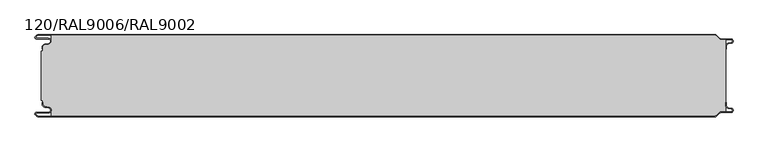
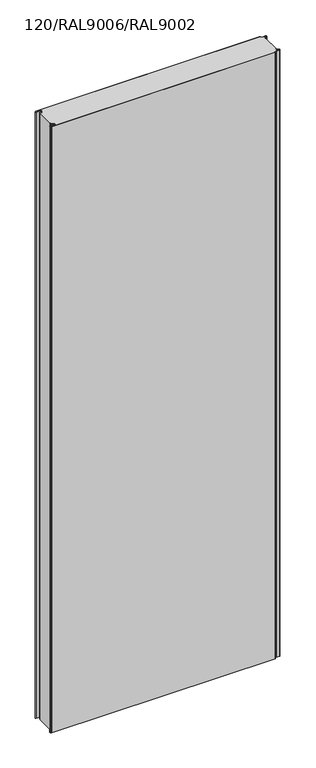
"""IFC4 building model written with IfcOpenShell, lengths in millimetres: plate geometry, TR_C_V_FTV_Panel : 120/RAL9006/RAL9002."""

from ifc_helpers import new_model, si_unit, point, frame_2d, origin, origin_with_axes, place, context, project, spatial, polyline, circle_curve, trimmed, segment, composite_curve, outline, extrude, source, transform, mapped, element, save


def plate_120_ral9006_ral9002_27679325(model_context):
    return source(origin(), model_context, "Body", "SweptSolid", [
        extrude(outline(composite_curve([segment(polyline([(499.8000012, -103.1130328), (499.8000012, -99.0), (500.6000012, -99.0), (500.6000012, -103.1130328)]), True, "CONTINUOUS"), segment(trimmed(circle_curve(frame_2d((504.3500012, -103.1130328)), 3.75), [point((500.6000012, -103.1130328))], [point((503.6988205, -106.8060618))], True, "CARTESIAN"), True, "CONTINUOUS"), segment(polyline([(503.6988205, -106.8060618), (507.9143577, -107.5493748)]), True, "CONTINUOUS"), segment(trimmed(circle_curve(frame_2d((507.3500012, -110.75)), 3.25), [point((507.9143577, -107.5493748))], [point((507.3500012, -114.0))], False, "CARTESIAN"), True, "CONTINUOUS"), segment(polyline([(507.3500012, -114.0), (492.6000012, -114.0)]), True, "CONTINUOUS"), segment(trimmed(circle_curve(frame_2d((492.6000012, -116.5)), 2.5), [point((492.6000012, -114.0))], [point((490.8322342, -114.732233))], True, "CARTESIAN"), True, "CONTINUOUS"), segment(polyline([(490.8322342, -114.732233), (486.4431469, -119.1213203)]), True, "CONTINUOUS"), segment(trimmed(circle_curve(frame_2d((484.3218266, -117.0)), 3.0), [point((486.4431469, -119.1213203))], [point((484.3218266, -120.0))], False, "CARTESIAN"), True, "CONTINUOUS"), segment(polyline([(484.3218266, -120.0), (-505.018628, -120.0)]), True, "CONTINUOUS"), segment(trimmed(circle_curve(frame_2d((-505.018628, -117.25)), 2.75), [point((-505.018628, -120.0))], [point((-506.9631716, -119.1945436))], False, "CARTESIAN"), True, "CONTINUOUS"), segment(polyline([(-506.9631716, -119.1945436), (-508.8288571, -117.3288582)]), True, "CONTINUOUS"), segment(trimmed(circle_curve(frame_2d((-507.4499988, -115.95)), 1.95), [point((-508.8288571, -117.3288582))], [point((-507.4499988, -114.0))], False, "CARTESIAN"), True, "CONTINUOUS"), segment(polyline([(-507.4499988, -114.0), (-489.8499988, -114.0)]), True, "CONTINUOUS"), segment(trimmed(circle_curve(frame_2d((-489.8499988, -110.55)), 3.45), [point((-489.8499988, -114.0))], [point((-489.2509126, -107.1524133))], True, "CARTESIAN"), True, "CONTINUOUS"), segment(polyline([(-489.2509126, -107.1524133), (-495.3011795, -106.085588)]), True, "CONTINUOUS"), segment(trimmed(circle_curve(frame_2d((-494.6499988, -102.3925589)), 3.75), [point((-495.3011795, -106.085588))], [point((-498.3999988, -102.3925589))], False, "CARTESIAN"), True, "CONTINUOUS"), segment(polyline([(-498.3999988, -102.3925589), (-498.3999988, -99.0), (-497.5999988, -99.0), (-497.5999988, -102.3925589)]), True, "CONTINUOUS"), segment(trimmed(circle_curve(frame_2d((-494.6499988, -102.3925589)), 2.95), [point((-497.5999988, -102.3925589))], [point((-495.162261, -105.2977418))], True, "CARTESIAN"), True, "CONTINUOUS"), segment(polyline([(-495.162261, -105.2977418), (-489.1119941, -106.364567)]), True, "CONTINUOUS"), segment(trimmed(circle_curve(frame_2d((-489.8499988, -110.55)), 4.25), [point((-489.1119941, -106.364567))], [point((-489.8499988, -114.8))], False, "CARTESIAN"), True, "CONTINUOUS"), segment(polyline([(-489.8499988, -114.8), (-507.4499988, -114.8)]), True, "CONTINUOUS"), segment(trimmed(circle_curve(frame_2d((-507.4499988, -115.95)), 1.15), [point((-507.4499988, -114.8))], [point((-508.2631716, -116.7631728))], True, "CARTESIAN"), True, "CONTINUOUS"), segment(polyline([(-508.2631716, -116.7631728), (-506.3974862, -118.6288582)]), True, "CONTINUOUS"), segment(trimmed(circle_curve(frame_2d((-505.018628, -117.25)), 1.95), [point((-506.3974862, -118.6288582))], [point((-505.018628, -119.2))], True, "CARTESIAN"), True, "CONTINUOUS"), segment(polyline([(-505.018628, -119.2), (484.3218266, -119.2)]), True, "CONTINUOUS"), segment(trimmed(circle_curve(frame_2d((484.3218266, -117.0)), 2.2), [point((484.3218266, -119.2))], [point((485.8774615, -118.5556349))], True, "CARTESIAN"), True, "CONTINUOUS"), segment(polyline([(485.8774615, -118.5556349), (490.2665488, -114.1665476)]), True, "CONTINUOUS"), segment(trimmed(circle_curve(frame_2d((492.6000012, -116.5)), 3.3), [point((490.2665488, -114.1665476))], [point((492.6000012, -113.2))], False, "CARTESIAN"), True, "CONTINUOUS"), segment(polyline([(492.6000012, -113.2), (507.3500012, -113.2)]), True, "CONTINUOUS"), segment(trimmed(circle_curve(frame_2d((507.3500012, -110.75)), 2.45), [point((507.3500012, -113.2))], [point((507.7754392, -108.337221))], True, "CARTESIAN"), True, "CONTINUOUS"), segment(polyline([(507.7754392, -108.337221), (503.559902, -107.5939081)]), True, "CONTINUOUS"), segment(trimmed(circle_curve(frame_2d((504.3500012, -103.1130328)), 4.55), [point((503.559902, -107.5939081))], [point((499.8000012, -103.1130328))], False, "CARTESIAN"), True, "CONTINUOUS")], self_intersect=False)), origin_with_axes(), (0.0, 0.0, 1.0), 2830.0),
        extrude(outline(composite_curve([segment(polyline([(-499.9999988, -23.7), (-497.5999988, -23.7), (-497.5999988, -17.6074411)]), True, "CONTINUOUS"), segment(trimmed(circle_curve(frame_2d((-494.6499988, -17.6074411)), 2.95), [point((-497.5999988, -17.6074411))], [point((-495.162261, -14.7022582))], False, "CARTESIAN"), True, "CONTINUOUS"), segment(polyline([(-495.162261, -14.7022582), (-489.1119941, -13.635433)]), True, "CONTINUOUS"), segment(trimmed(circle_curve(frame_2d((-489.8499988, -9.45)), 4.25), [point((-489.1119941, -13.635433))], [point((-485.5999988, -9.45))], True, "CARTESIAN"), True, "CONTINUOUS"), segment(polyline([(-485.5999988, -9.45), (-485.5999988, -0.8), (484.3218266, -0.8)]), True, "CONTINUOUS"), segment(trimmed(circle_curve(frame_2d((484.3218266, -3.0)), 2.2), [point((484.3218266, -0.8))], [point((485.8774615, -1.4443651))], False, "CARTESIAN"), True, "CONTINUOUS"), segment(polyline([(485.8774615, -1.4443651), (490.2665488, -5.8334524)]), True, "CONTINUOUS"), segment(trimmed(circle_curve(frame_2d((492.6000012, -3.5)), 3.3), [point((490.2665488, -5.8334524))], [point((492.6000012, -6.8))], True, "CARTESIAN"), True, "CONTINUOUS"), segment(polyline([(492.6000012, -6.8), (500.0, -6.8), (500.0, -113.2), (492.6000012, -113.2)]), True, "CONTINUOUS"), segment(trimmed(circle_curve(frame_2d((492.6000012, -116.5)), 3.3), [point((492.6000012, -113.2))], [point((490.2665488, -114.1665476))], True, "CARTESIAN"), True, "CONTINUOUS"), segment(polyline([(490.2665488, -114.1665476), (485.8774615, -118.5556349)]), True, "CONTINUOUS"), segment(trimmed(circle_curve(frame_2d((484.3218266, -117.0)), 2.2), [point((485.8774615, -118.5556349))], [point((484.3218266, -119.2))], False, "CARTESIAN"), True, "CONTINUOUS"), segment(polyline([(484.3218266, -119.2), (-485.5999988, -119.2), (-485.5999988, -110.55)]), True, "CONTINUOUS"), segment(trimmed(circle_curve(frame_2d((-489.8499988, -110.55)), 4.25), [point((-485.5999988, -110.55))], [point((-489.1119941, -106.364567))], True, "CARTESIAN"), True, "CONTINUOUS"), segment(polyline([(-489.1119941, -106.364567), (-495.162261, -105.2977418)]), True, "CONTINUOUS"), segment(trimmed(circle_curve(frame_2d((-494.6499988, -102.3925589)), 2.95), [point((-495.162261, -105.2977418))], [point((-497.5999988, -102.3925589))], False, "CARTESIAN"), True, "CONTINUOUS"), segment(polyline([(-497.5999988, -102.3925589), (-497.5999988, -96.3), (-499.9999988, -96.3), (-499.9999988, -23.7)]), True, "CONTINUOUS")], self_intersect=False)), origin_with_axes(), (0.0, 0.0, 1.0), 2830.0),
        extrude(outline(composite_curve([segment(trimmed(circle_curve(frame_2d((504.3500012, -16.8869672)), 4.55), [point((499.8000012, -16.8869672))], [point((503.559902, -12.4060919))], False, "CARTESIAN"), True, "CONTINUOUS"), segment(polyline([(503.559902, -12.4060919), (507.7754392, -11.662779)]), True, "CONTINUOUS"), segment(trimmed(circle_curve(frame_2d((507.3500012, -9.25)), 2.45), [point((507.7754392, -11.662779))], [point((507.3500012, -6.8))], True, "CARTESIAN"), True, "CONTINUOUS"), segment(polyline([(507.3500012, -6.8), (492.6000012, -6.8)]), True, "CONTINUOUS"), segment(trimmed(circle_curve(frame_2d((492.6000012, -3.5)), 3.3), [point((492.6000012, -6.8))], [point((490.2665488, -5.8334524))], False, "CARTESIAN"), True, "CONTINUOUS"), segment(polyline([(490.2665488, -5.8334524), (485.8774615, -1.4443651)]), True, "CONTINUOUS"), segment(trimmed(circle_curve(frame_2d((484.3218266, -3.0)), 2.2), [point((485.8774615, -1.4443651))], [point((484.3218266, -0.8))], True, "CARTESIAN"), True, "CONTINUOUS"), segment(polyline([(484.3218266, -0.8), (-505.018628, -0.8)]), True, "CONTINUOUS"), segment(trimmed(circle_curve(frame_2d((-505.018628, -2.75)), 1.95), [point((-505.018628, -0.8))], [point((-506.3974862, -1.3711418))], True, "CARTESIAN"), True, "CONTINUOUS"), segment(polyline([(-506.3974862, -1.3711418), (-508.2631716, -3.2368272)]), True, "CONTINUOUS"), segment(trimmed(circle_curve(frame_2d((-507.4499988, -4.05)), 1.15), [point((-508.2631716, -3.2368272))], [point((-507.4499988, -5.2))], True, "CARTESIAN"), True, "CONTINUOUS"), segment(polyline([(-507.4499988, -5.2), (-489.8499988, -5.2)]), True, "CONTINUOUS"), segment(trimmed(circle_curve(frame_2d((-489.8499988, -9.45)), 4.25), [point((-489.8499988, -5.2))], [point((-489.1119941, -13.635433))], False, "CARTESIAN"), True, "CONTINUOUS"), segment(polyline([(-489.1119941, -13.635433), (-495.162261, -14.7022582)]), True, "CONTINUOUS"), segment(trimmed(circle_curve(frame_2d((-494.6499988, -17.6074411)), 2.95), [point((-495.162261, -14.7022582))], [point((-497.5999988, -17.6074411))], True, "CARTESIAN"), True, "CONTINUOUS"), segment(polyline([(-497.5999988, -17.6074411), (-497.5999988, -21.0), (-498.3999988, -21.0), (-498.3999988, -17.6074411)]), True, "CONTINUOUS"), segment(trimmed(circle_curve(frame_2d((-494.6499988, -17.6074411)), 3.75), [point((-498.3999988, -17.6074411))], [point((-495.3011795, -13.914412))], False, "CARTESIAN"), True, "CONTINUOUS"), segment(polyline([(-495.3011795, -13.914412), (-489.2509126, -12.8475867)]), True, "CONTINUOUS"), segment(trimmed(circle_curve(frame_2d((-489.8499988, -9.45)), 3.45), [point((-489.2509126, -12.8475867))], [point((-489.8499988, -6.0))], True, "CARTESIAN"), True, "CONTINUOUS"), segment(polyline([(-489.8499988, -6.0), (-507.4499988, -6.0)]), True, "CONTINUOUS"), segment(trimmed(circle_curve(frame_2d((-507.4499988, -4.05)), 1.95), [point((-507.4499988, -6.0))], [point((-508.8288571, -2.6711418))], False, "CARTESIAN"), True, "CONTINUOUS"), segment(polyline([(-508.8288571, -2.6711418), (-506.9631716, -0.8054564)]), True, "CONTINUOUS"), segment(trimmed(circle_curve(frame_2d((-505.018628, -2.75)), 2.75), [point((-506.9631716, -0.8054564))], [point((-505.018628, 0.0))], False, "CARTESIAN"), True, "CONTINUOUS"), segment(polyline([(-505.018628, 0.0), (484.3218266, 0.0)]), True, "CONTINUOUS"), segment(trimmed(circle_curve(frame_2d((484.3218266, -3.0)), 3.0), [point((484.3218266, 0.0))], [point((486.4431469, -0.8786797))], False, "CARTESIAN"), True, "CONTINUOUS"), segment(polyline([(486.4431469, -0.8786797), (490.8322342, -5.267767)]), True, "CONTINUOUS"), segment(trimmed(circle_curve(frame_2d((492.6000012, -3.5)), 2.5), [point((490.8322342, -5.267767))], [point((492.6000012, -6.0))], True, "CARTESIAN"), True, "CONTINUOUS"), segment(polyline([(492.6000012, -6.0), (507.3500012, -6.0)]), True, "CONTINUOUS"), segment(trimmed(circle_curve(frame_2d((507.3500012, -9.25)), 3.25), [point((507.3500012, -6.0))], [point((507.9143577, -12.4506252))], False, "CARTESIAN"), True, "CONTINUOUS"), segment(polyline([(507.9143577, -12.4506252), (503.6988205, -13.1939382)]), True, "CONTINUOUS"), segment(trimmed(circle_curve(frame_2d((504.3500012, -16.8869672)), 3.75), [point((503.6988205, -13.1939382))], [point((500.6000012, -16.8869672))], True, "CARTESIAN"), True, "CONTINUOUS"), segment(polyline([(500.6000012, -16.8869672), (500.6000012, -21.0), (499.8000012, -21.0), (499.8000012, -16.8869672)]), True, "CONTINUOUS")], self_intersect=False)), origin_with_axes(), (0.0, 0.0, 1.0), 2830.0),
    ])


if __name__ == "__main__":
    model = new_model("IFC4")
    model_context = context("Model", 3, world=origin())
    ifc_project = project(units=[si_unit("LENGTHUNIT", "METRE", prefix="MILLI")], contexts=[model_context])
    site = spatial("IfcSite", under=ifc_project)
    building = spatial("IfcBuilding", under=site)
    placement = place(None, origin())
    plate_120_ral9006_ral9002_shape = plate_120_ral9006_ral9002_27679325(model_context)
    element("IfcPlate", 1, ObjectType="TR_C_V_FTV_Panel : 120/RAL9006/RAL9002", at=placement, inside=building, context=model_context, shape_type="MappedRepresentation", body=[
        mapped(plate_120_ral9006_ral9002_shape, transform((0.0, 0.0, 0.0), x_axis=(1.0, 0.0, 0.0), y_axis=(0.0, 1.0, 0.0), z_axis=(0.0, 0.0, 1.0))),
    ])
    save(model, "model.ifc")
